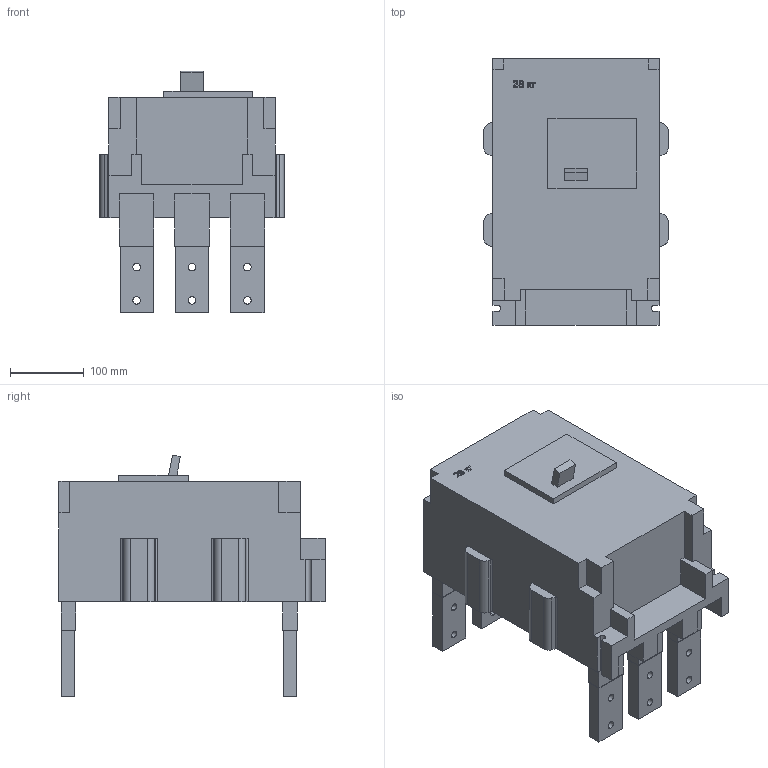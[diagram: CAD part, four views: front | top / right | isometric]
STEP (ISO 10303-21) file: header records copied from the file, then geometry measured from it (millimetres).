
FILE_DESCRIPTION (( 'STEP AP214' ), '1' );
FILE_NAME ('ÂÀ52(56)-41 çàäíåå ïðèñîåäèíåíèå.STEP', '2023-02-10T07:33:42', ( 'user' ), ( '' ), 'SwSTEP 2.0', 'SolidWorks 2018', '' );
FILE_SCHEMA (( 'AUTOMOTIVE_DESIGN' ));
Length unit declared in the file: millimetre
Products named in the file (1): ÂÀ52(56)-41 çàäíåå ïðèñîåäèíåíèå
Bounding box: 250 x 361 x 327.64 mm (x, y, z)
Volume: 12811957.9 mm3; surface area: 519191.8 mm2
Topology: 5 solids, 5 shells, 195 faces, 551 edges, 385 vertices
Faces by surface type: plane 149, cylinder 46
Entity records: 6913 total; most frequent: CARTESIAN_POINT 1606, ORIENTED_EDGE 1102, DIRECTION 1003, EDGE_CURVE 551, VECTOR 427, LINE 427, VERTEX_POINT 385, AXIS2_PLACEMENT_3D 288
